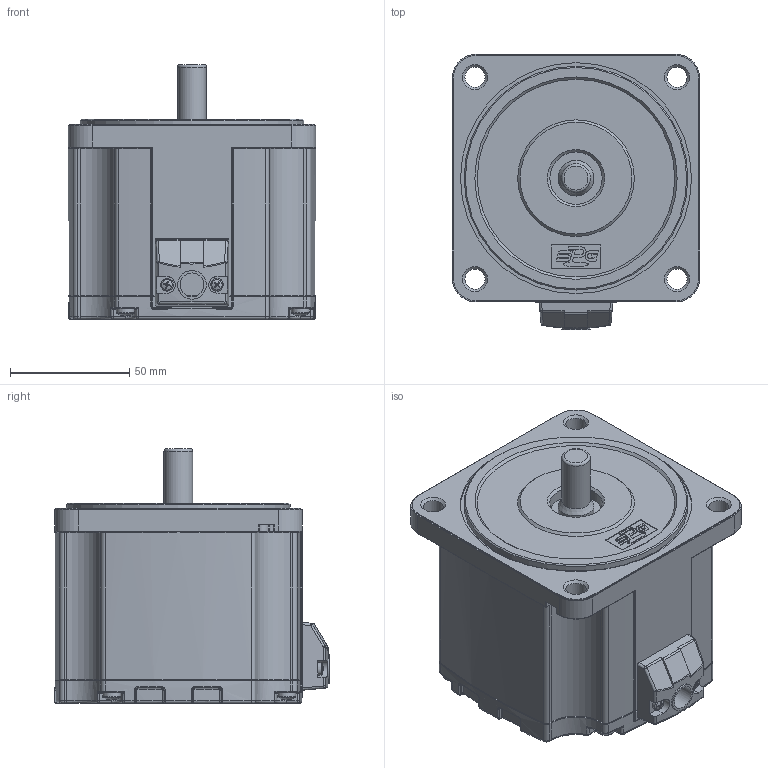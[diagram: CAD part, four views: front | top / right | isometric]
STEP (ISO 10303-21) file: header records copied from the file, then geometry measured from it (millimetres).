
FILE_DESCRIPTION((''),'2;1');
FILE_NAME('C:\Documents and Settings\Administrator\바탕 화면\BLDC 3D FILE\GEAR HEAD ASS''Y\60\MOTOR\104\104-G TYPE.stp','2014-06-19T12:54:53',('kdhkdh'),(''),'Autodesk Inventor 2011','Autodesk Inventor 2011','');
FILE_SCHEMA(('AUTOMOTIVE_DESIGN { 1 0 10303 214 1 1 1 1 }'));
Length unit declared in the file: millimetre
Products named in the file (1): 부품6
Bounding box: 104 x 115.5 x 107 mm (x, y, z)
Volume: 779357.8 mm3; surface area: 107458.7 mm2
Topology: 1 solids, 8 shells, 783 faces, 1963 edges, 1158 vertices
Faces by surface type: cylinder 247, plane 202, torus 123, bspline 95, cone 82, sphere 34
Full cylindrical faces by diameter (mm): 2.729 x2, 3 x2, 3.5 x2, 3.621 x4, 4 x8, 4.5 x4, 5.3 x2, 7.64 x4, 8.5 x4, 10 x1, 12 x1, 12.04 x1, 15 x1, 22 x1, 81 x1, 94 x1, 95.185 x1, 97 x2
Entity records: 25856 total; most frequent: CARTESIAN_POINT 8211, DIRECTION 3668, ORIENTED_EDGE 3574, EDGE_CURVE 1787, AXIS2_PLACEMENT_3D 1522, VERTEX_POINT 1127, EDGE_LOOP 914, CIRCLE 807
